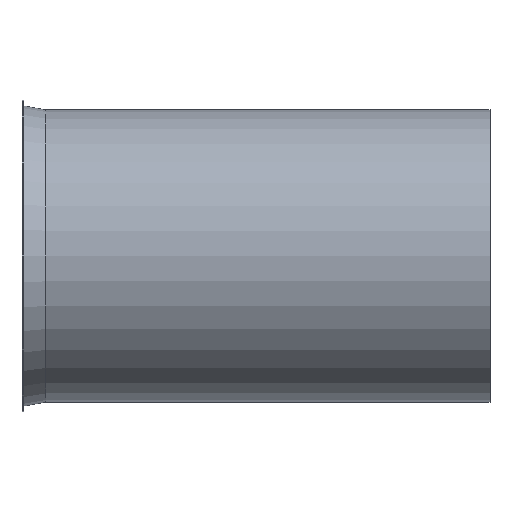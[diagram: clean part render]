
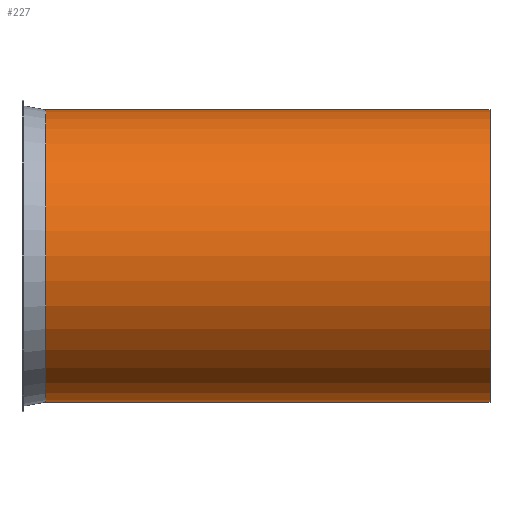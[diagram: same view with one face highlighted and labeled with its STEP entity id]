
A CAD part, front view. The second image highlights one B-rep face of the part: STEP entity #227.
In plain terms, the highlighted cylindrical face has radius 154 mm (diameter 308 mm), a full revolution.
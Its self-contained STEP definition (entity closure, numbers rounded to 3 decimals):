
#132=CARTESIAN_POINT('',(-2.081,46.834,0.0));
#133=VERTEX_POINT('',#132);
#134=CARTESIAN_POINT('',(-2.081,200.834,0.0));
#135=DIRECTION('',(-1.0,0.0,0.0));
#136=DIRECTION('',(0.0,-1.0,0.0));
#137=AXIS2_PLACEMENT_3D('',#134,#135,#136);
#138=CIRCLE('',#137,154.0);
#139=EDGE_CURVE('',#133,#133,#138,.T.);
#201=CARTESIAN_POINT('',(465.919,46.834,0.0));
#202=VERTEX_POINT('',#201);
#203=CARTESIAN_POINT('',(465.919,200.834,0.0));
#204=DIRECTION('',(-1.0,0.0,0.0));
#205=DIRECTION('',(0.0,-1.0,0.0));
#206=AXIS2_PLACEMENT_3D('',#203,#204,#205);
#207=CIRCLE('',#206,154.);
#208=EDGE_CURVE('',#202,#202,#207,.T.);
#216=CARTESIAN_POINT('',(231.919,200.834,0.0));
#217=DIRECTION('',(-1.0,0.,0.0));
#218=DIRECTION('',(0.0,-1.0,0.0));
#219=AXIS2_PLACEMENT_3D('',#216,#217,#218);
#220=CYLINDRICAL_SURFACE('',#219,154.0);
#221=ORIENTED_EDGE('',*,*,#139,.F.);
#222=EDGE_LOOP('',(#221));
#223=FACE_OUTER_BOUND('',#222,.T.);
#224=ORIENTED_EDGE('',*,*,#208,.T.);
#225=EDGE_LOOP('',(#224));
#226=FACE_BOUND('',#225,.T.);
#227=ADVANCED_FACE('',(#223,#226),#220,.T.);
